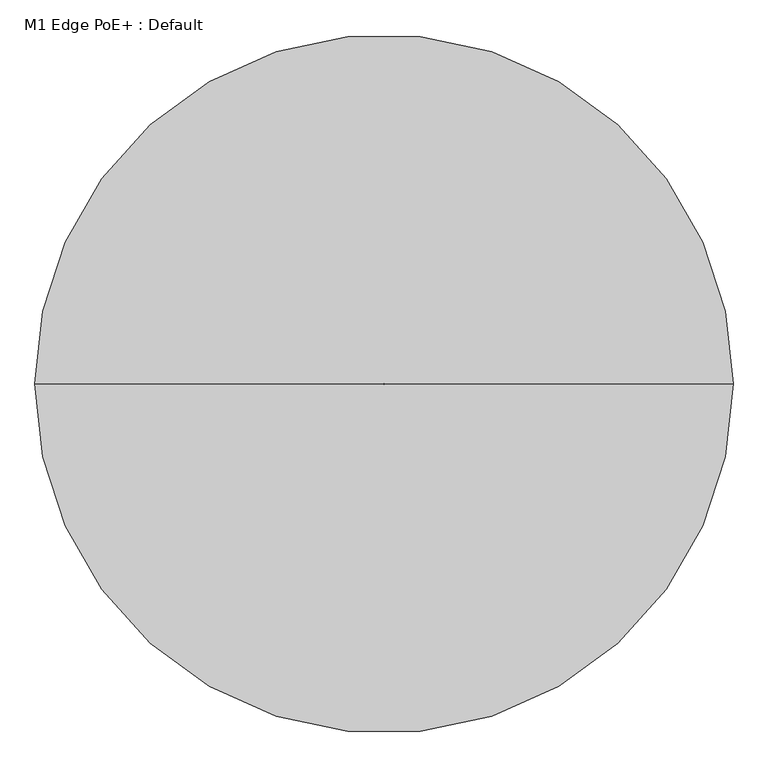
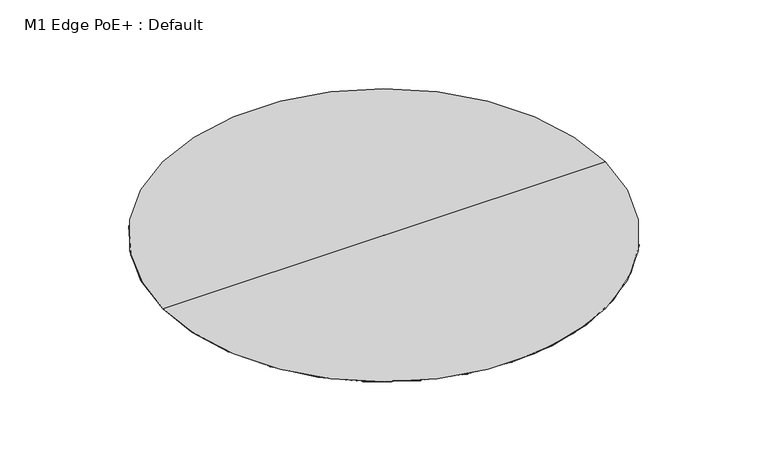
"""IFC4 building model written with IfcOpenShell, lengths in millimetres: proxy geometry, M1 Edge PoE+ : Default."""

from ifc_helpers import new_model, si_unit, frame, origin, place, context, project, spatial, polyline, circle_curve, source, transform, mapped, element, save
from ifc_brep_helpers import plane_surface, cylinder_surface, revolved_surface, advanced_brep


def m1_edge_poe_default_f8c1ceea(model_context):
    return source(origin(), model_context, "Body", "AdvancedBrep", [
        advanced_brep(
        [(0.0, 28.675, 3063.03192), (0.0, 117.675, 3063.03192), (0.0, 117.675, 3127.0834825), (0.0, 28.675, 3127.0834825), (0.0, 25.175, 3063.03192), (0.0, 121.175, 3063.03192), (0.0, 25.175, 3053.0108263), (0.0, 121.175, 3053.0108263), (0.0, 15.675, 3053.0108263), (0.0, 130.675, 3053.0108263), (0.0, 15.675, 2992.9834825), (0.0, 130.675, 2992.9834825), (0.0, 73.175, 2992.9834825), (0.0, 73.175, 3127.0834825)],
        [
            (0, 1, circle_curve(frame((0.0, 73.175, 3063.03192), z_axis=(0.0, 0.0, 1.0), x_axis=(0.0, 1.0, 0.0)), 44.5)),
            (1, 2),
            (2, 3, circle_curve(frame((0.0, 73.175, 3127.0834825), z_axis=(0.0, 0.0, -1.0), x_axis=(0.0, 1.0, 0.0)), 44.5)),
            (3, 0),
            (1, 0, circle_curve(frame((0.0, 73.175, 3063.03192), z_axis=(0.0, 0.0, 1.0), x_axis=(0.0, 1.0, 0.0)), 44.5)),
            (3, 2, circle_curve(frame((0.0, 73.175, 3127.0834825), z_axis=(0.0, 0.0, -1.0), x_axis=(0.0, 1.0, 0.0)), 44.5)),
            (4, 5, circle_curve(frame((0.0, 73.175, 3063.03192), z_axis=(0.0, 0.0, 1.0), x_axis=(0.0, 1.0, 0.0)), 48.0)),
            (5, 1),
            (0, 4),
            (5, 4, circle_curve(frame((0.0, 73.175, 3063.03192), z_axis=(0.0, 0.0, 1.0), x_axis=(0.0, 1.0, 0.0)), 48.0)),
            (6, 7, circle_curve(frame((0.0, 73.175, 3053.0108263), z_axis=(0.0, 0.0, 1.0), x_axis=(0.0, 1.0, 0.0)), 48.0)),
            (7, 5),
            (4, 6),
            (7, 6, circle_curve(frame((0.0, 73.175, 3053.0108263), z_axis=(0.0, 0.0, 1.0), x_axis=(0.0, 1.0, 0.0)), 48.0)),
            (8, 9, circle_curve(frame((0.0, 73.175, 3053.0108263), z_axis=(0.0, 0.0, 1.0), x_axis=(0.0, 1.0, 0.0)), 57.5)),
            (9, 7),
            (6, 8),
            (9, 8, circle_curve(frame((0.0, 73.175, 3053.0108263), z_axis=(0.0, 0.0, 1.0), x_axis=(0.0, 1.0, 0.0)), 57.5)),
            (10, 11, circle_curve(frame((0.0, 73.175, 2992.9834825), z_axis=(0.0, 0.0, 1.0), x_axis=(0.0, 1.0, 0.0)), 57.5)),
            (11, 9),
            (8, 10),
            (11, 10, circle_curve(frame((0.0, 73.175, 2992.9834825), z_axis=(0.0, 0.0, 1.0), x_axis=(0.0, 1.0, 0.0)), 57.5)),
            (12, 11),
            (10, 12),
            (2, 13),
            (13, 3),
        ],
        [
            cylinder_surface(frame((0.0, 73.175, 3394.9634398), z_axis=(0.0, 0.0, -1.0), x_axis=(0.0, 1.0, 0.0)), 44.5),
            plane_surface(frame((0.0, 73.175, 3063.03192), z_axis=(0.0, 0.0, 1.0), x_axis=(0.0, 1.0, 0.0))),
            cylinder_surface(frame((0.0, 73.175, 3394.9634398), z_axis=(0.0, 0.0, -1.0), x_axis=(0.0, 1.0, 0.0)), 48.0),
            plane_surface(frame((0.0, 73.175, 3053.0108263), z_axis=(0.0, 0.0, 1.0), x_axis=(0.0, 1.0, 0.0))),
            cylinder_surface(frame((0.0, 73.175, 3394.9634398), z_axis=(0.0, 0.0, -1.0), x_axis=(0.0, 1.0, 0.0)), 57.5),
            plane_surface(frame((0.0, 73.175, 2992.9834825), z_axis=(0.0, 0.0, -1.0), x_axis=(0.0, 1.0, 0.0))),
            plane_surface(frame((0.0, 73.175, 3127.0834825), z_axis=(0.0, 0.0, 1.0), x_axis=(0.0, 1.0, 0.0))),
        ],
        [
            (0, [[1, 2, 3, 4]]),
            (0, [[5, -4, 6, -2]]),
            (1, [[7, 8, -1, 9]]),
            (1, [[10, -9, -5, -8]]),
            (2, [[11, 12, -7, 13]]),
            (2, [[14, -13, -10, -12]]),
            (3, [[15, 16, -11, 17]]),
            (3, [[18, -17, -14, -16]]),
            (4, [[19, 20, -15, 21]]),
            (4, [[22, -21, -18, -20]]),
            (5, [[23, -19, 24]]),
            (5, [[-24, -22, -23]]),
            (6, [[-3, 25, 26]]),
            (6, [[-6, -26, -25]]),
        ],
    ),
        advanced_brep(
        [(70104.0, 73.175, 3091.60692), (-70104.0, 73.175, 3091.60692), (-46.2980768, 73.175, 3091.60692), (46.2980768, 73.175, 3091.60692), (70104.0, 73.175, 3011.8911911), (-70104.0, 73.175, 3011.8911911)],
        [
            (0, 1, circle_curve(frame((0.0, 73.175, 3091.60692), z_axis=(0.0, 0.0, 1.0), x_axis=(-1.0, 0.0, 0.0)), 70104.0)),
            (1, 2),
            (2, 3, circle_curve(frame((0.0, 73.175, 3091.60692), z_axis=(0.0, 0.0, -1.0), x_axis=(-1.0, 0.0, 0.0)), 46.2980768)),
            (3, 0),
            (1, 0, circle_curve(frame((0.0, 73.175, 3091.60692), z_axis=(0.0, 0.0, 1.0), x_axis=(-1.0, 0.0, 0.0)), 70104.0)),
            (3, 2, circle_curve(frame((0.0, 73.175, 3091.60692), z_axis=(0.0, 0.0, -1.0), x_axis=(-1.0, 0.0, 0.0)), 46.2980768)),
            (4, 5, circle_curve(frame((0.0, 73.175, 3011.8911911), z_axis=(0.0, 0.0, 1.0), x_axis=(-1.0, 0.0, 0.0)), 70104.0)),
            (5, 1),
            (0, 4),
            (5, 4, circle_curve(frame((0.0, 73.175, 3011.8911911), z_axis=(0.0, 0.0, 1.0), x_axis=(-1.0, 0.0, 0.0)), 70104.0)),
            (2, 5),
            (4, 3),
        ],
        [
            plane_surface(frame((0.0, 73.175, 3091.60692), z_axis=(0.0, 0.0, 1.0), x_axis=(-1.0, 0.0, 0.0))),
            cylinder_surface(frame((0.0, 73.175, 5435.4137144), z_axis=(0.0, 0.0, -1.0), x_axis=(-1.0, 0.0, 0.0)), 70104.0),
            revolved_surface(polyline([(-70104.0, 73.175, 3011.8911911), (-46.2980768, 73.175, 3091.60692)]), (0.0, 73.175, 5435.4137144), (0.0, 0.0, -1.0)),
        ],
        [
            (0, [[1, 2, 3, 4]]),
            (0, [[5, -4, 6, -2]]),
            (1, [[7, 8, -1, 9]]),
            (1, [[10, -9, -5, -8]]),
            (2, [[-3, 11, -7, 12]]),
            (2, [[-6, -12, -10, -11]]),
        ],
    ),
    ])


if __name__ == "__main__":
    model = new_model("IFC4")
    model_context = context("Model", 3, world=origin())
    ifc_project = project(units=[si_unit("LENGTHUNIT", "METRE", prefix="MILLI")], contexts=[model_context])
    site = spatial("IfcSite", under=ifc_project)
    building = spatial("IfcBuilding", under=site)
    placement = place(None, origin())
    m1_edge_poe_default_shape = m1_edge_poe_default_f8c1ceea(model_context)
    element("IfcBuildingElementProxy", 1, Name="M1 Edge PoE+ : Default", ObjectType="M1 Edge PoE+ : Default", at=placement, inside=building, context=model_context, shape_type="MappedRepresentation", body=[
        mapped(m1_edge_poe_default_shape, transform((0.0, 0.0, 0.0), x_axis=(1.0, 0.0, 0.0), y_axis=(0.0, 1.0, 0.0), z_axis=(0.0, 0.0, 1.0))),
    ])
    save(model, "model.ifc")
